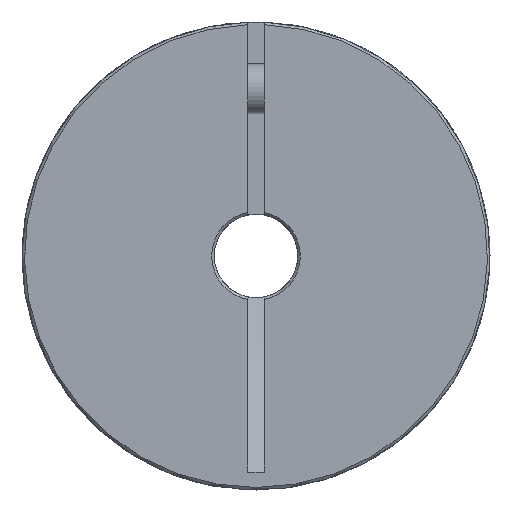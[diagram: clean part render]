
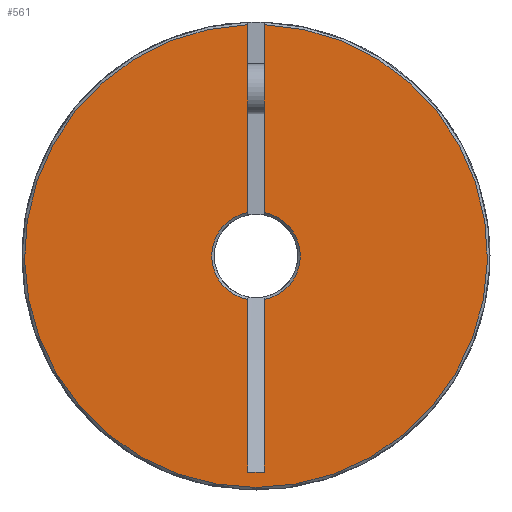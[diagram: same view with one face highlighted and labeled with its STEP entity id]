
A CAD part, left-side view. The second image highlights one B-rep face of the part: STEP entity #561.
In plain terms, the highlighted planar face has unit normal (-1, 0, 0) as drawn and (0, 0, 1) by its records, which use the part's own axes.
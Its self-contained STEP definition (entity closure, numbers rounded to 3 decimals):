
#561 = ADVANCED_FACE( 'NONE', ( #1130 ), #1131, .T. );
#1130 = FACE_OUTER_BOUND( '', #1671, .T. );
#1131 = PLANE( '', #1672 );
#1671 = EDGE_LOOP( '', ( #2828, #2829, #2830, #2831, #2832, #2833, #2834, #2835 ) );
#1672 = AXIS2_PLACEMENT_3D( '', #2836, #2837, #2838 );
#2828 = ORIENTED_EDGE( '', *, *, #3021, .F. );
#2829 = ORIENTED_EDGE( '', *, *, #2990, .T. );
#2830 = ORIENTED_EDGE( '', *, *, #3380, .T. );
#2831 = ORIENTED_EDGE( '', *, *, #3091, .T. );
#2832 = ORIENTED_EDGE( '', *, *, #3376, .T. );
#2833 = ORIENTED_EDGE( '', *, *, #3337, .F. );
#2834 = ORIENTED_EDGE( '', *, *, #3189, .F. );
#2835 = ORIENTED_EDGE( '', *, *, #3378, .T. );
#2836 = CARTESIAN_POINT( '', ( 0., 0., 24.5 ) );
#2837 = DIRECTION( '', ( 0., 0., 1. ) );
#2838 = DIRECTION( '', ( 1., 0., 0. ) );
#2990 = EDGE_CURVE( 'NONE', #3505, #3503, #3506, .T. );
#3021 = EDGE_CURVE( 'NONE', #3505, #3553, #3554, .F. );
#3091 = EDGE_CURVE( 'NONE', #3672, #3669, #3673, .F. );
#3189 = EDGE_CURVE( 'NONE', #3817, #3819, #3820, .F. );
#3337 = EDGE_CURVE( 'NONE', #3819, #4019, #4020, .F. );
#3376 = EDGE_CURVE( 'NONE', #3669, #4019, #4059, .T. );
#3378 = EDGE_CURVE( 'NONE', #3817, #3553, #4061, .F. );
#3380 = EDGE_CURVE( 'NONE', #3503, #3672, #4063, .T. );
#3503 = VERTEX_POINT( 'NONE', #4282 );
#3505 = VERTEX_POINT( 'NONE', #4287 );
#3506 = CIRCLE( '', #4288, 27.7 );
#3553 = VERTEX_POINT( 'NONE', #4346 );
#3554 = LINE( '', #4347, #4348 );
#3669 = VERTEX_POINT( 'NONE', #4480 );
#3672 = VERTEX_POINT( 'NONE', #4486 );
#3673 = CIRCLE( '', #4487, 5.3 );
#3817 = VERTEX_POINT( 'NONE', #4663 );
#3819 = VERTEX_POINT( 'NONE', #4668 );
#3820 = LINE( '', #4669, #4670 );
#4019 = VERTEX_POINT( 'NONE', #5104 );
#4020 = LINE( '', #5105, #5106 );
#4059 = LINE( '', #5153, #5154 );
#4061 = CIRCLE( '', #5156, 5.3 );
#4063 = LINE( '', #5158, #5159 );
#4282 = CARTESIAN_POINT( '', ( 27.682, -1., 24.5 ) );
#4287 = CARTESIAN_POINT( '', ( 27.682, 1., 24.5 ) );
#4288 = AXIS2_PLACEMENT_3D( '', #5276, #5277, #5278 );
#4346 = CARTESIAN_POINT( '', ( 5.205, 1., 24.5 ) );
#4347 = CARTESIAN_POINT( '', ( 17., 1., 24.5 ) );
#4348 = VECTOR( '', #5320, 1000. );
#4480 = CARTESIAN_POINT( '', ( -5.205, -1., 24.5 ) );
#4486 = CARTESIAN_POINT( '', ( 5.205, -1., 24.5 ) );
#4487 = AXIS2_PLACEMENT_3D( '', #5455, #5456, #5457 );
#4663 = CARTESIAN_POINT( '', ( -5.205, 1., 24.5 ) );
#4668 = CARTESIAN_POINT( '', ( -25.849, 1., 24.5 ) );
#4669 = CARTESIAN_POINT( '', ( 17., 1., 24.5 ) );
#4670 = VECTOR( '', #5613, 1000. );
#5104 = CARTESIAN_POINT( '', ( -25.849, -1., 24.5 ) );
#5105 = CARTESIAN_POINT( '', ( -25.849, -1., 24.5 ) );
#5106 = VECTOR( '', #5806, 1000. );
#5153 = CARTESIAN_POINT( '', ( 0., -1., 24.5 ) );
#5154 = VECTOR( '', #5827, 1000. );
#5156 = AXIS2_PLACEMENT_3D( '', #5828, #5829, #5830 );
#5158 = CARTESIAN_POINT( '', ( 0., -1., 24.5 ) );
#5159 = VECTOR( '', #5831, 1000. );
#5276 = CARTESIAN_POINT( '', ( 0., 0., 24.5 ) );
#5277 = DIRECTION( '', ( 0., 0., 1. ) );
#5278 = DIRECTION( '', ( 1., 0., 0. ) );
#5320 = DIRECTION( '', ( 1., 0., 0. ) );
#5455 = CARTESIAN_POINT( '', ( 0., 0., 24.5 ) );
#5456 = DIRECTION( '', ( 0., 0., 1. ) );
#5457 = DIRECTION( '', ( 1., 0., 0. ) );
#5613 = DIRECTION( '', ( 1., 0., 0. ) );
#5806 = DIRECTION( '', ( 0., 1., 0. ) );
#5827 = DIRECTION( '', ( -1., 0., 0. ) );
#5828 = CARTESIAN_POINT( '', ( 0., 0., 24.5 ) );
#5829 = DIRECTION( '', ( 0., 0., 1. ) );
#5830 = DIRECTION( '', ( 1., 0., 0. ) );
#5831 = DIRECTION( '', ( -1., 0., 0. ) );
